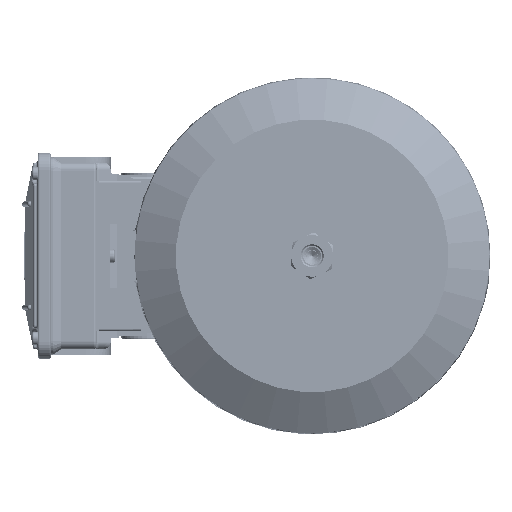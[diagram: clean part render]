
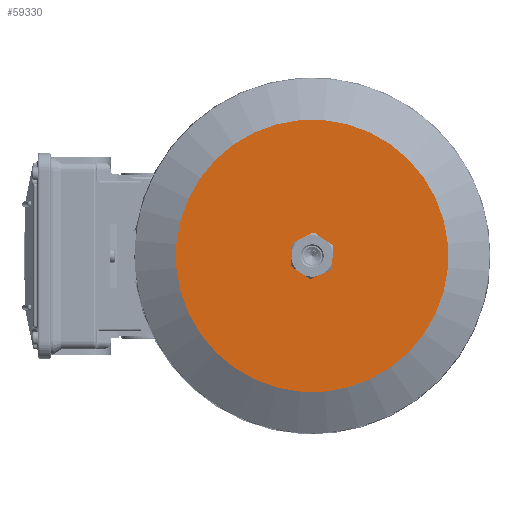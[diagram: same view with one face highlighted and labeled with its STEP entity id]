
A CAD part, left-side view. The second image highlights one B-rep face of the part: STEP entity #59330.
In plain terms, the highlighted planar face has unit normal (-1, 0, 0) as drawn and (0, -1, 0) by its records, which use the part's own axes.
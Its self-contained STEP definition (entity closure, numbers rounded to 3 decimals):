
#218 = EDGE_CURVE ( 'NONE', #11170, #91788, #51395, .T. ) ;
#1754 = CARTESIAN_POINT ( 'NONE',  ( 0., 0., -13.5 ) ) ;
#2684 = CIRCLE ( 'NONE', #76143, 13.5 ) ;
#8877 = CIRCLE ( 'NONE', #22676, 13.5 ) ;
#8947 = DIRECTION ( 'NONE',  ( 0., 1., 0. ) ) ;
#10662 = CARTESIAN_POINT ( 'NONE',  ( 0., 0., 13.5 ) ) ;
#11170 = VERTEX_POINT ( 'NONE', #57769 ) ;
#12091 = FACE_BOUND ( 'NONE', #31754, .T. ) ;
#15937 = DIRECTION ( 'NONE',  ( 0., 1., 0. ) ) ;
#16524 = EDGE_LOOP ( 'NONE', ( #55265, #92151 ) ) ;
#18218 = CARTESIAN_POINT ( 'NONE',  ( -13.5, 0., 0. ) ) ;
#21475 = EDGE_CURVE ( 'NONE', #91788, #11170, #28601, .T. ) ;
#22676 = AXIS2_PLACEMENT_3D ( 'NONE', #104834, #50140, #114061 ) ;
#28601 = CIRCLE ( 'NONE', #75414, 100. ) ;
#28752 = VERTEX_POINT ( 'NONE', #1754 ) ;
#30138 = DIRECTION ( 'NONE',  ( 0., 1., 0. ) ) ;
#31754 = EDGE_LOOP ( 'NONE', ( #52738, #35275 ) ) ;
#35275 = ORIENTED_EDGE ( 'NONE', *, *, #62203, .T. ) ;
#35684 = VERTEX_POINT ( 'NONE', #10662 ) ;
#50140 = DIRECTION ( 'NONE',  ( 0., 1., 0. ) ) ;
#51395 = CIRCLE ( 'NONE', #75960, 100. ) ;
#52738 = ORIENTED_EDGE ( 'NONE', *, *, #105390, .T. ) ;
#55265 = ORIENTED_EDGE ( 'NONE', *, *, #218, .F. ) ;
#57769 = CARTESIAN_POINT ( 'NONE',  ( 0., 0., 100. ) ) ;
#59025 = PLANE ( 'NONE',  #76040 ) ;
#59330 = ADVANCED_FACE ( 'NONE', ( #12091, #82122 ), #59025, .T. ) ;
#62203 = EDGE_CURVE ( 'NONE', #28752, #35684, #8877, .T. ) ;
#63679 = CARTESIAN_POINT ( 'NONE',  ( 0., 0., 0. ) ) ;
#70633 = CARTESIAN_POINT ( 'NONE',  ( 0., 0., 0. ) ) ;
#72875 = DIRECTION ( 'NONE',  ( 0., 0., 1. ) ) ;
#75414 = AXIS2_PLACEMENT_3D ( 'NONE', #63679, #8947, #72875 ) ;
#75960 = AXIS2_PLACEMENT_3D ( 'NONE', #70633, #15937, #79824 ) ;
#76040 = AXIS2_PLACEMENT_3D ( 'NONE', #18218, #82120, #100411 ) ;
#76143 = AXIS2_PLACEMENT_3D ( 'NONE', #84843, #30138, #94012 ) ;
#79824 = DIRECTION ( 'NONE',  ( 0., 0., 1. ) ) ;
#82120 = DIRECTION ( 'NONE',  ( 0., -1., 0. ) ) ;
#82122 = FACE_OUTER_BOUND ( 'NONE', #16524, .T. ) ;
#84843 = CARTESIAN_POINT ( 'NONE',  ( 0., 0., 0. ) ) ;
#91788 = VERTEX_POINT ( 'NONE', #116079 ) ;
#92151 = ORIENTED_EDGE ( 'NONE', *, *, #21475, .F. ) ;
#94012 = DIRECTION ( 'NONE',  ( 0., 0., 1. ) ) ;
#100411 = DIRECTION ( 'NONE',  ( 0., 0., -1. ) ) ;
#104834 = CARTESIAN_POINT ( 'NONE',  ( 0., 0., 0. ) ) ;
#105390 = EDGE_CURVE ( 'NONE', #35684, #28752, #2684, .T. ) ;
#114061 = DIRECTION ( 'NONE',  ( 0., 0., 1. ) ) ;
#116079 = CARTESIAN_POINT ( 'NONE',  ( 0., 0., -100. ) ) ;
